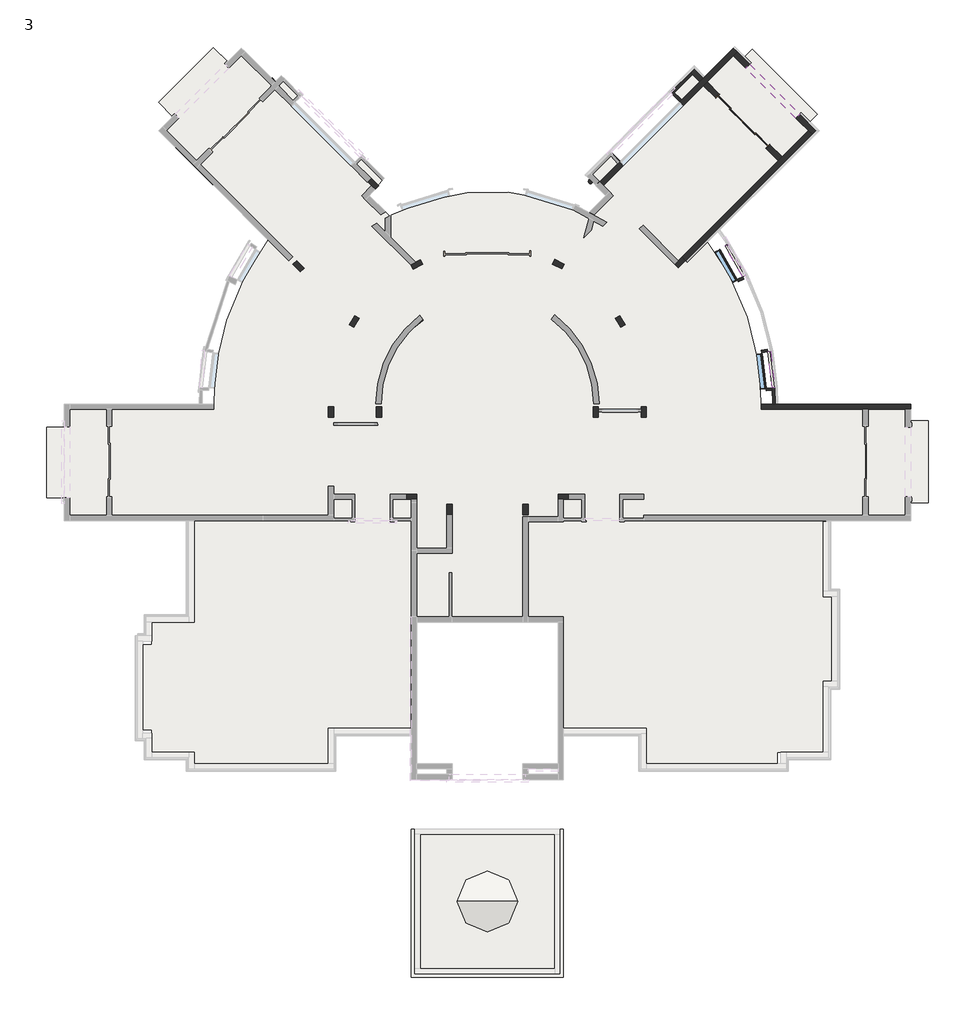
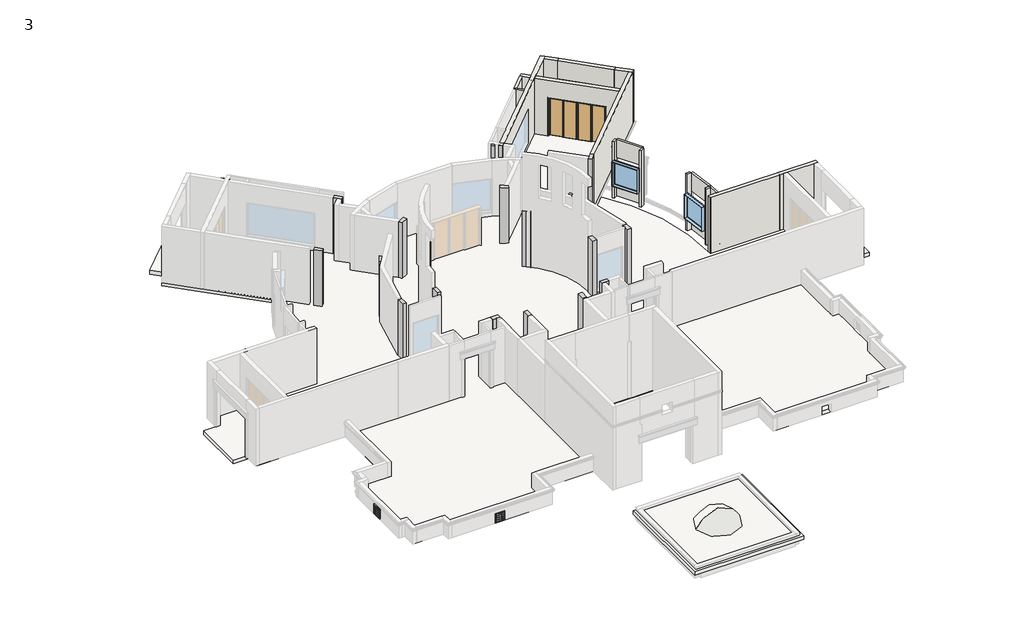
# One storey, part 5 of 12: 26 columns, 19 walls, 3 slabs, 2 proxies, 2 windows, 1 door.
"""IFC4 building model written with IfcOpenShell, lengths in millimetres."""

from ifc_helpers import new_model, si_unit, point, frame, frame_2d, origin, place, context, project, spatial, polyline, circle_curve, trimmed, segment, composite_curve, outline, extrude, faceted_brep, transform, mapped, element, save
from ifc_brep_helpers import plane_surface, cylinder_surface, revolved_surface, advanced_brep
from components import generic_models_3ce4d895, m_concrete_rectangular_column_300_x_450mm_978fc997, sa_concrete_round_column_300_mm_dia_784098f8, aus_sliding_door_4_panel_type_3_7ec97240, floors_1_floors_1_f5d326a2, fixed_w2_3_782477aa

model = new_model("IFC4")

# Units and contexts
model_context = context("Model", 3, world=origin())
ifc_project = project(units=[si_unit("LENGTHUNIT", "METRE", prefix="MILLI")], contexts=[model_context])

# Site, building, storey
site = spatial("IfcSite", under=ifc_project)
building = spatial("IfcBuilding", under=site)
storey = spatial("IfcBuildingStorey", under=building, Name="3", Elevation=3581.4)

# Proxies
placement = place(None, origin())
generic_models_shape = generic_models_3ce4d895(model_context)
element("IfcBuildingElementProxy", 1, Name="stone jhali : stone jhali", ObjectType="stone jhali : stone jhali", at=placement, inside=storey, context=model_context, shape_type="MappedRepresentation", body=[
    mapped(generic_models_shape, transform((-18142.344385, -15088.1193311, 3886.2), x_axis=(1.0, 0.0, 0.0), y_axis=(0.0, 1.0, 0.0), z_axis=(0.0, 0.0, 1.0))),
])
element("IfcBuildingElementProxy", 2, Name="stone jhali : stone jhali", ObjectType="stone jhali : stone jhali", at=placement, inside=storey, context=model_context, shape_type="MappedRepresentation", body=[
    mapped(generic_models_shape, transform((-23501.7608197, -11658.7187537, 3962.4), x_axis=(0.0, 1.0, 0.0), y_axis=(-1.0, 0.0, 0.0), z_axis=(0.0, 0.0, 1.0))),
])

# Columns
m_concrete_rectangular_column_300_x_450mm_shape = m_concrete_rectangular_column_300_x_450mm_978fc997(model_context)
element("IfcColumn", 3, ObjectType="M_Concrete-Rectangular-Column : 300 x 450mm", at=placement, inside=storey, context=model_context, shape_type="MappedRepresentation", body=[
    mapped(m_concrete_rectangular_column_300_x_450mm_shape, transform((-5340.5950906, -8763.5193311, 0.0), x_axis=(0.0, 1.0, 0.0), y_axis=(-1.0, 0.0, 0.0), z_axis=(0.0, 0.0, 1.0))),
])
element("IfcColumn", 4, ObjectType="M_Concrete-Rectangular-Column : 300 x 450mm", at=placement, inside=storey, context=model_context, shape_type="MappedRepresentation", body=[
    mapped(m_concrete_rectangular_column_300_x_450mm_shape, transform((7803.9049094, 418.5806689, 0.0), x_axis=(0.0, 1.0, 0.0), y_axis=(-1.0, 0.0, 0.0), z_axis=(0.0, 0.0, 1.0))),
])
element("IfcColumn", 5, ObjectType="M_Concrete-Rectangular-Column : 300 x 450mm", at=placement, inside=storey, context=model_context, shape_type="MappedRepresentation", body=[
    mapped(m_concrete_rectangular_column_300_x_450mm_shape, transform((3663.7049094, 418.5806689, 0.0), x_axis=(0.0, 1.0, 0.0), y_axis=(-1.0, 0.0, 0.0), z_axis=(0.0, 0.0, 1.0))),
])
element("IfcColumn", 6, ObjectType="M_Concrete-Rectangular-Column : 300 x 450mm", at=placement, inside=storey, context=model_context, shape_type="MappedRepresentation", body=[
    mapped(m_concrete_rectangular_column_300_x_450mm_shape, transform((-5114.2930034, -3467.6193311, 0.0), x_axis=(0.0, 1.0, 0.0), y_axis=(-1.0, 0.0, 0.0), z_axis=(0.0, 0.0, 1.0))),
])
element("IfcColumn", 7, ObjectType="M_Concrete-Rectangular-Column : 300 x 450mm", at=placement, inside=storey, context=model_context, shape_type="MappedRepresentation", body=[
    mapped(m_concrete_rectangular_column_300_x_450mm_shape, transform((-11665.1950906, -3467.6193311, 0.0), x_axis=(0.0, 1.0, 0.0), y_axis=(-1.0, 0.0, 0.0), z_axis=(0.0, 0.0, 1.0))),
])
element("IfcColumn", 8, ObjectType="M_Concrete-Rectangular-Column : 300 x 450mm", at=placement, inside=storey, context=model_context, shape_type="MappedRepresentation", body=[
    mapped(m_concrete_rectangular_column_300_x_450mm_shape, transform((-24581.0950906, 418.5806689, 0.0), x_axis=(0.0, 1.0, 0.0), y_axis=(-1.0, 0.0, 0.0), z_axis=(0.0, 0.0, 1.0))),
])
element("IfcColumn", 9, ObjectType="M_Concrete-Rectangular-Column : 300 x 450mm", at=placement, inside=storey, context=model_context, shape_type="MappedRepresentation", body=[
    mapped(m_concrete_rectangular_column_300_x_450mm_shape, transform((-20439.9860213, 418.5806689, 0.0), x_axis=(0.0, 1.0, 0.0), y_axis=(-1.0, 0.0, 0.0), z_axis=(0.0, 0.0, 1.0))),
])
element("IfcColumn", 10, ObjectType="M_Concrete-Rectangular-Column : 300 x 450mm", at=placement, inside=storey, context=model_context, shape_type="MappedRepresentation", body=[
    mapped(m_concrete_rectangular_column_300_x_450mm_shape, transform((-15132.2950906, 189.9806689, 0.0), x_axis=(-1.0, 0.0, 0.0), y_axis=(0.0, -1.0, 0.0), z_axis=(0.0, 0.0, 1.0))),
])
element("IfcColumn", 11, ObjectType="M_Concrete-Rectangular-Column : 300 x 450mm", at=placement, inside=storey, context=model_context, shape_type="MappedRepresentation", body=[
    mapped(m_concrete_rectangular_column_300_x_450mm_shape, transform((-10026.8950906, -4006.2422692, 0.0), x_axis=(-1.0, 0.0, 0.0), y_axis=(0.0, -1.0, 0.0), z_axis=(0.0, 0.0, 1.0))),
])
element("IfcColumn", 12, ObjectType="M_Concrete-Rectangular-Column : 300 x 450mm", at=placement, inside=storey, context=model_context, shape_type="MappedRepresentation", body=[
    mapped(m_concrete_rectangular_column_300_x_450mm_shape, transform((-6750.2950906, -4006.2422692, 0.0), x_axis=(-1.0, 0.0, 0.0), y_axis=(0.0, -1.0, 0.0), z_axis=(0.0, 0.0, 1.0))),
])
element("IfcColumn", 13, ObjectType="M_Concrete-Rectangular-Column : 300 x 450mm", at=placement, inside=storey, context=model_context, shape_type="MappedRepresentation", body=[
    mapped(m_concrete_rectangular_column_300_x_450mm_shape, transform((-1644.8950906, 189.9806689, 0.0), x_axis=(-1.0, 0.0, 0.0), y_axis=(0.0, -1.0, 0.0), z_axis=(0.0, 0.0, 1.0))),
])
element("IfcColumn", 14, ObjectType="M_Concrete-Rectangular-Column : 300 x 450mm", at=placement, inside=storey, context=model_context, shape_type="MappedRepresentation", body=[
    mapped(m_concrete_rectangular_column_300_x_450mm_shape, transform((-13062.1950906, 189.9806689, 0.0), x_axis=(1.0, 0.0, 0.0), y_axis=(0.0, 1.0, 0.0), z_axis=(0.0, 0.0, 1.0))),
])
element("IfcColumn", 15, ObjectType="M_Concrete-Rectangular-Column : 300 x 450mm", at=placement, inside=storey, context=model_context, shape_type="MappedRepresentation", body=[
    mapped(m_concrete_rectangular_column_300_x_450mm_shape, transform((-3717.2930034, 189.9806689, 0.0), x_axis=(1.0, 0.0, 0.0), y_axis=(0.0, 1.0, 0.0), z_axis=(0.0, 0.0, 1.0))),
])
element("IfcColumn", 16, ObjectType="M_Concrete-Rectangular-Column : 300 x 450mm", at=placement, inside=storey, context=model_context, shape_type="MappedRepresentation", body=[
    mapped(m_concrete_rectangular_column_300_x_450mm_shape, transform((-5378.6950906, 4124.5607697, 0.0), x_axis=(0.6331323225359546, 0.7740435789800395, 0.0), y_axis=(-0.7740435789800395, 0.6331323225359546, 0.0), z_axis=(0.0, 0.0, 1.0))),
])
element("IfcColumn", 17, ObjectType="M_Concrete-Rectangular-Column : 300 x 450mm", at=placement, inside=storey, context=model_context, shape_type="MappedRepresentation", body=[
    mapped(m_concrete_rectangular_column_300_x_450mm_shape, transform((-11398.4950906, 4091.8314615, 0.0), x_axis=(-0.6123355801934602, 0.7905979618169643, 0.0), y_axis=(-0.7905979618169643, -0.6123355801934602, 0.0), z_axis=(0.0, 0.0, 1.0))),
])
element("IfcColumn", 18, ObjectType="M_Concrete-Rectangular-Column : 300 x 450mm", at=placement, inside=storey, context=model_context, shape_type="MappedRepresentation", body=[
    mapped(m_concrete_rectangular_column_300_x_450mm_shape, transform((-14128.9950906, 4091.8314615, 0.0), x_axis=(0.8571673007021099, -0.5150380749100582, 0.0), y_axis=(0.5150380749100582, 0.8571673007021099, 0.0), z_axis=(0.0, 0.0, 1.0))),
])
element("IfcColumn", 19, ObjectType="M_Concrete-Rectangular-Column : 300 x 450mm", at=placement, inside=storey, context=model_context, shape_type="MappedRepresentation", body=[
    mapped(m_concrete_rectangular_column_300_x_450mm_shape, transform((-2653.4275467, 4091.8314615, 0.0), x_axis=(0.8496279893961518, 0.5273824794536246, 0.0), y_axis=(-0.5273824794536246, 0.8496279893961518, 0.0), z_axis=(0.0, 0.0, 1.0))),
])
element("IfcColumn", 20, ObjectType="M_Concrete-Rectangular-Column : 300 x 450mm", at=placement, inside=storey, context=model_context, shape_type="MappedRepresentation", body=[
    mapped(m_concrete_rectangular_column_300_x_450mm_shape, transform((-5337.4238046, 6561.8551911, 0.0), x_axis=(0.4520268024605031, 0.8920043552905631, 0.0), y_axis=(-0.8920043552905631, 0.4520268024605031, 0.0), z_axis=(0.0, 0.0, 1.0))),
])
element("IfcColumn", 21, ObjectType="M_Concrete-Rectangular-Column : 300 x 450mm", at=placement, inside=storey, context=model_context, shape_type="MappedRepresentation", body=[
    mapped(m_concrete_rectangular_column_300_x_450mm_shape, transform((-11434.1429814, 6550.5777908, 0.0), x_axis=(-0.452026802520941, 0.8920043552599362, 0.0), y_axis=(-0.8920043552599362, -0.452026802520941, 0.0), z_axis=(0.0, 0.0, 1.0))),
])
element("IfcColumn", 22, ObjectType="M_Concrete-Rectangular-Column : 300 x 450mm", at=placement, inside=storey, context=model_context, shape_type="MappedRepresentation", body=[
    mapped(m_concrete_rectangular_column_300_x_450mm_shape, transform((-16538.0075219, 6473.1500944, 0.0), x_axis=(-0.7071067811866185, -0.7071067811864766, 0.0), y_axis=(0.7071067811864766, -0.7071067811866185, 0.0), z_axis=(0.0, 0.0, 1.0))),
])
element("IfcColumn", 23, ObjectType="M_Concrete-Rectangular-Column : 300 x 450mm", at=placement, inside=storey, context=model_context, shape_type="MappedRepresentation", body=[
    mapped(m_concrete_rectangular_column_300_x_450mm_shape, transform((-17608.7950906, 14349.4565887, 0.0), x_axis=(0.7445226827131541, 0.6675971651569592, 0.0), y_axis=(-0.6675971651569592, 0.7445226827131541, 0.0), z_axis=(0.0, 0.0, 1.0))),
])
element("IfcColumn", 24, ObjectType="M_Concrete-Rectangular-Column : 300 x 450mm", at=placement, inside=storey, context=model_context, shape_type="MappedRepresentation", body=[
    mapped(m_concrete_rectangular_column_300_x_450mm_shape, transform((-13307.7107299, 10031.92693, 0.0), x_axis=(0.7071067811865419, 0.7071067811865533, 0.0), y_axis=(-0.7071067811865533, 0.7071067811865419, 0.0), z_axis=(0.0, 0.0, 1.0))),
])
element("IfcColumn", 25, ObjectType="M_Concrete-Rectangular-Column : 300 x 450mm", at=placement, inside=storey, context=model_context, shape_type="MappedRepresentation", body=[
    mapped(m_concrete_rectangular_column_300_x_450mm_shape, transform((-3469.4794512, 10031.92693, 0.0), x_axis=(0.7071067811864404, -0.7071067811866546, 0.0), y_axis=(0.7071067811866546, 0.7071067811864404, 0.0), z_axis=(0.0, 0.0, 1.0))),
])
element("IfcColumn", 26, ObjectType="M_Concrete-Rectangular-Column : 300 x 450mm", at=placement, inside=storey, context=model_context, shape_type="MappedRepresentation", body=[
    mapped(m_concrete_rectangular_column_300_x_450mm_shape, transform((-69.8514686, 6642.481285, 0.0), x_axis=(0.7071067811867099, -0.7071067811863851, 0.0), y_axis=(0.7071067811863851, 0.7071067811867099, 0.0), z_axis=(0.0, 0.0, 1.0))),
])
element("IfcColumn", 27, ObjectType="M_Concrete-Rectangular-Column : 300 x 450mm", at=placement, inside=storey, context=model_context, shape_type="MappedRepresentation", body=[
    mapped(m_concrete_rectangular_column_300_x_450mm_shape, transform((846.1346557, 14347.5410369, 0.0), x_axis=(0.7071067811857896, -0.7071067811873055, 0.0), y_axis=(0.7071067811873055, 0.7071067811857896, 0.0), z_axis=(0.0, 0.0, 1.0))),
])
sa_concrete_round_column_300_mm_dia_shape = sa_concrete_round_column_300_mm_dia_784098f8(model_context)
element("IfcColumn", 28, ObjectType="SA_Concrete - Round-Column : 300 mm dia.", at=placement, inside=storey, context=model_context, shape_type="MappedRepresentation", body=[
    mapped(sa_concrete_round_column_300_mm_dia_shape, transform((-3945.8930034, 10128.4268672, 0.0), x_axis=(1.0, 0.0, 0.0), y_axis=(0.0, 1.0, 0.0), z_axis=(0.0, 0.0, 1.0))),
])

# Door
aus_sliding_door_4_panel_type_3_shape = aus_sliding_door_4_panel_type_3_7ec97240(model_context)
element("IfcDoor", 29, ObjectType="AUS_Sliding Door 4 Panel : Type 3", at=placement, inside=storey, context=model_context, shape_type="MappedRepresentation", body=[
    mapped(aus_sliding_door_4_panel_type_3_shape, transform((2682.3198475, 12667.9092865, 3581.4), x_axis=(-0.7071067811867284, 0.7071067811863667, 0.0), y_axis=(-0.7071067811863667, -0.7071067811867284, 0.0), z_axis=(0.0, 0.0, 1.0))),
])

# Slabs
element("IfcSlab", 30, ObjectType="230mm slab 2", at=placement, inside=storey, context=model_context, shape_type="SweptSolid", body=[
    extrude(outline(composite_curve([segment(polyline([(-21949.2627028, 12926.1149854), (-22564.4102471, 13541.2625297), (-20202.6028872, 15903.0698895), (-19587.455343, 15287.9223452), (-18994.758439, 15880.6192492), (-17537.3615358, 14423.222346), (-17268.9396378, 14691.644244), (-16409.4297103, 13832.1343165), (-16858.2713404, 13382.9503997), (-14271.9575775, 10796.6366368), (-13822.9448041, 11245.6494102), (-12837.1893136, 10259.8939197), (-13524.9739059, 9547.672125), (-12624.7856559, 8647.4850157)]), True, "CONTINUOUS"), segment(trimmed(circle_curve(frame_2d((-8313.0591486, 325.5474236)), 9372.6), [point((-12624.7856559, 8647.4850157))], [point((-4096.7062016, 8696.2103953))], False, "CARTESIAN"), True, "CONTINUOUS"), segment(polyline([(-4096.7062016, 8696.2103953), (-3273.0446051, 9519.8719918), (-4099.2281682, 10346.055555), (-3051.5978461, 11393.6858771), (-2512.7824789, 10854.8705098), (48.6871101, 13416.3400988), (-490.1282571, 13955.1554661), (533.6209407, 14978.9046639), (1090.3968202, 14422.1287844), (2220.9347123, 15552.6666765), (2486.3274925, 15287.2738962), (3025.1428598, 15826.0892635), (5826.9827695, 13024.2493537), (5288.1674023, 12485.4339865), (5449.8120125, 12323.7893763), (923.8088883, 7797.7862522)]), True, "CONTINUOUS"), segment(trimmed(circle_curve(frame_2d((-8388.5950906, 532.8806689)), 11811.0), [point((923.8088883, 7797.7862522))], [point((3420.1924441, 304.2806689))], False, "CARTESIAN"), True, "CONTINUOUS"), segment(polyline([(3420.1924441, 304.2806689), (9632.7049094, 304.2806689), (9632.7049094, -191.0193311), (10623.3049094, -191.0193311), (10623.3049094, -3732.4770415), (9632.7049094, -3732.4770415), (9632.7049094, -4267.7193311), (6202.7878641, -4267.7193311), (6202.7878641, -7657.8181763), (6583.6550044, -7657.8181763), (6583.6550044, -11544.0181763), (6088.4878641, -11544.0181763), (6088.4878641, -14478.5193311), (4108.2049094, -14478.5193311), (4108.2049094, -14973.8193311), (-1530.5950906, -14973.8193311), (-1530.5950906, -13449.0181763), (-5111.9950906, -13449.0181763), (-5111.9950906, -8877.8193311), (-11436.5950906, -8877.8193311), (-11436.5950906, -13449.0181763), (-15246.5950906, -13449.0181763), (-15246.5950906, -14973.8193311), (-21037.7950906, -14973.8193311), (-21037.7950906, -14478.5193311), (-22866.5950906, -14478.5193311), (-22866.5950906, -13506.9693311), (-23247.7608197, -13506.9693311), (-23247.7608197, -9848.5681763), (-22866.5950906, -9848.5681763), (-22866.5950906, -8877.8193311), (-21152.0950906, -8877.8193311), (-21152.0950906, -4267.7193311), (-26408.9780453, -4267.7193311), (-26408.9780453, -3504.9181763), (-27399.7602091, -3504.9181763), (-27399.7602091, -456.9181763), (-26408.9780453, -456.9181763), (-26408.9780453, 304.2806689), (-20197.3826253, 304.2806689)]), True, "CONTINUOUS"), segment(trimmed(circle_curve(frame_2d((-8388.5950906, 532.8806689)), 11811.0), [point((-20197.3826253, 304.2806689))], [point((-17841.0743596, 7614.5723219))], False, "CARTESIAN"), True, "CONTINUOUS"), segment(polyline([(-17841.0743596, 7614.5723219), (-22550.9398629, 12324.4378252), (-21949.2627028, 12926.1149854)]), True, "CONTINUOUS")], self_intersect=False)), frame((0.0, 0.0, 3403.6), z_axis=(0.0, 0.0, 1.0), x_axis=(1.0, 0.0, 0.0)), (0.0, 0.0, 1.0), 228.6),
])
element("IfcSlab", 31, ObjectType="230mm slab 2", at=placement, inside=storey, context=model_context, shape_type="SweptSolid", body=[
    extrude(outline(polyline([(-5111.9950906, -17793.2193311), (-5111.9950906, -24194.0193311), (-11665.1950906, -24194.0193311), (-11665.1950906, -17793.2193311), (-5111.9950906, -17793.2193311)])), frame((0.0, 0.0, 3352.8), z_axis=(0.0, 0.0, 1.0), x_axis=(1.0, 0.0, 0.0)), (0.0, 0.0, 1.0), 228.6),
])
floors_1_floors_1_shape = floors_1_floors_1_f5d326a2(model_context)
element("IfcSlab", 32, ObjectType="Floors 1 : Floors 1", at=placement, inside=storey, context=model_context, shape_type="MappedRepresentation", body=[
    mapped(floors_1_floors_1_shape, transform((0.0, 0.0, 0.0), x_axis=(1.0, 0.0, 0.0), y_axis=(0.0, 1.0, 0.0), z_axis=(0.0, 0.0, 1.0))),
])

# Walls
element("IfcWall", 33, ObjectType="115mm BK WALL", at=placement, inside=storey, context=model_context, shape_type="AdvancedBrep", body=[
    advanced_brep(
    [(4032.0045138, 532.8806689, 7162.8), (4011.9076469, 1242.2990052, 7162.8), (3897.792591, 1235.7994648, 7162.8), (3903.7627565, 1121.6366503, 7162.8), (3917.7045101, 532.8806689, 7162.8), (4011.9076469, 1242.2990052, 3581.4), (4032.0045138, 532.8806689, 3581.4), (3917.7045101, 532.8806689, 3581.4), (3903.7627565, 1121.6366503, 3581.4), (3897.792591, 1235.7994648, 3581.4), (4032.0045138, 532.8806689, 3886.2), (4032.0045138, 532.8806689, 3733.8), (4011.9076469, 1242.2990052, 3733.8), (4011.9076469, 1242.2990052, 3886.2), (4011.9076469, 1242.2990052, 4343.4), (4011.9076469, 1242.2990052, 4495.8), (4011.9076469, 1242.2990052, 4527.55), (4011.9076469, 1242.2990052, 6019.8), (4011.9076469, 1242.2990052, 6515.1), (3897.792591, 1235.7994648, 6019.8), (3897.792591, 1235.7994648, 4495.8)],
    [
        (0, 1, circle_curve(frame((-8388.5950906, 536.0156211, 7162.8), z_axis=(0.0, 0.0, 1.0), x_axis=(1.0, 0.0, 0.0)), 12420.6)),
        (1, 2),
        (2, 3, circle_curve(frame((-8388.5950906, 536.0156211, 7162.8), z_axis=(0.0, 0.0, -1.0), x_axis=(1.0, 0.0, 0.0)), 12306.3)),
        (3, 4, circle_curve(frame((-8388.5950906, 536.0156211, 7162.8), z_axis=(0.0, 0.0, -1.0), x_axis=(1.0, 0.0, 0.0)), 12306.2997457)),
        (4, 0),
        (5, 6, circle_curve(frame((-8388.5950906, 536.0156211, 3581.4), z_axis=(0.0, 0.0, -1.0), x_axis=(1.0, 0.0, 0.0)), 12420.6)),
        (6, 7),
        (7, 8, circle_curve(frame((-8388.5950906, 536.0156211, 3581.4), z_axis=(0.0, 0.0, 1.0), x_axis=(1.0, 0.0, 0.0)), 12306.3)),
        (8, 9, circle_curve(frame((-8388.5950906, 536.0156211, 3581.4), z_axis=(0.0, 0.0, 1.0), x_axis=(1.0, 0.0, 0.0)), 12306.2997457)),
        (9, 5),
        (0, 10),
        (10, 11),
        (11, 6),
        (5, 12),
        (12, 13),
        (13, 14),
        (14, 15),
        (15, 16),
        (16, 17),
        (17, 18),
        (18, 1),
        (2, 19),
        (19, 20),
        (20, 9),
        (7, 4),
    ],
    [
        plane_surface(frame((4032.0049094, 536.0156211, 7162.8), z_axis=(0.0, 0.0, 1.0), x_axis=(0.0, 1.0, 0.0))),
        plane_surface(frame((4032.0049094, 536.0156211, 3581.4), z_axis=(0.0, 0.0, -1.0), x_axis=(0.0, -1.0, 0.0))),
        cylinder_surface(frame((-8388.5950906, 536.0156211, 3581.4), z_axis=(0.0, 0.0, 1.0), x_axis=(1.0, 0.0, 0.0)), 12420.6),
        revolved_surface(polyline([(3917.7049093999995, 536.0156211, 3581.4), (3917.7049093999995, 536.0156211, 7162.8)]), (-8388.5950906, 536.0156211, 3581.4), (0.0, 0.0, -1.0)),
        plane_surface(frame((3631.3457441, 1220.6237107, 3581.4), z_axis=(-0.0568638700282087, 0.998381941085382, 0.0), x_axis=(-0.998381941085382, -0.0568638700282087, 0.0))),
        plane_surface(frame((3438.7049094, 532.8806689, 3581.4), z_axis=(0.0, -1.0, 0.0), x_axis=(-1.0, 0.0, 0.0))),
    ],
    [
        (0, [[1, 2, 3, 4, 5]]),
        (1, [[6, 7, 8, 9, 10]]),
        (2, [[-1, 11, 12, 13, -6, 14, 15, 16, 17, 18, 19, 20, 21]]),
        (3, [[-4, -3, 22, 23, 24, -9, -8, 25]]),
        (4, [[-10, -24, -23, -22, -2, -21, -20, -19, -18, -17, -16, -15, -14]]),
        (5, [[-5, -25, -7, -13, -12, -11]]),
    ],
),
])
element("IfcWall", 34, ObjectType="115mm BK WALL", at=placement, inside=storey, context=model_context, shape_type="SweptSolid", body=[
    extrude(outline(composite_curve([segment(polyline([(3903.7621738, 1121.6542247), (3637.3332541, 1106.4794916)]), True, "CONTINUOUS"), segment(trimmed(circle_curve(frame_2d((-8388.5950906, 532.8806689)), 12039.6), [point((3637.3332541, 1106.4794916))], [point((3631.3457441, 1220.6237107))], True, "CARTESIAN"), True, "CONTINUOUS"), segment(polyline([(3631.3457441, 1220.6237107), (3897.792591, 1235.7994648)]), True, "CONTINUOUS"), segment(trimmed(circle_curve(frame_2d((-8388.5950906, 536.0156211)), 12306.3), [point((3897.792591, 1235.7994648))], [point((3903.7621738, 1121.6542247))], False, "CARTESIAN"), True, "CONTINUOUS")], self_intersect=False)), frame((0.0, 0.0, 3581.4), z_axis=(0.0, 0.0, 1.0), x_axis=(1.0, 0.0, 0.0)), (0.0, 0.0, 1.0), 3581.4),
])
element("IfcWall", 35, ObjectType="115mm BK WALL", at=placement, inside=storey, context=model_context, shape_type="SweptSolid", body=[
    extrude(outline(composite_curve([segment(polyline([(3696.3775885, 2788.1048939), (3446.6880704, 2741.5093521)]), True, "CONTINUOUS"), segment(trimmed(circle_curve(frame_2d((-8388.5950906, 532.8806689)), 12039.6), [point((3446.6880704, 2741.5093521))], [point((3425.1867088, 2853.7701014))], True, "CARTESIAN"), True, "CONTINUOUS"), segment(polyline([(3425.1867088, 2853.7701014), (3675.4095947, 2900.4651771), (3696.3775885, 2788.1048939)]), True, "CONTINUOUS")], self_intersect=False)), frame((0.0, 0.0, 3581.4), z_axis=(0.0, 0.0, 1.0), x_axis=(1.0, 0.0, 0.0)), (0.0, 0.0, 1.0), 3581.4),
])
element("IfcWall", 36, ObjectType="115mm BK WALL", at=placement, inside=storey, context=model_context, shape_type="SweptSolid", body=[
    extrude(outline(composite_curve([segment(polyline([(2676.3480552, 5922.2993929), (2436.4066183, 5802.7294488)]), True, "CONTINUOUS"), segment(trimmed(circle_curve(frame_2d((-8388.5950906, 532.8806689)), 12039.6), [point((2436.4066183, 5802.7294488))], [point((2385.8886248, 5905.2608515))], True, "CARTESIAN"), True, "CONTINUOUS"), segment(polyline([(2385.8886248, 5905.2608515), (2625.8433797, 6024.8374323)]), True, "CONTINUOUS"), segment(trimmed(circle_curve(frame_2d((-8388.5950906, 536.0156211)), 12306.3), [point((2625.8433797, 6024.8374323))], [point((2676.3480552, 5922.2993929))], False, "CARTESIAN"), True, "CONTINUOUS")], self_intersect=False)), frame((0.0, 0.0, 3581.4), z_axis=(0.0, 0.0, 1.0), x_axis=(1.0, 0.0, 0.0)), (0.0, 0.0, 1.0), 3581.4),
])
element("IfcWall", 37, ObjectType="115mm BK WALL", at=placement, inside=storey, context=model_context, shape_type="AdvancedBrep", body=[
    advanced_brep(
    [(1634.525337, 7202.8900432, 3581.4), (1857.8674575, 7351.8079405, 3581.4), (1857.8674575, 7351.8079405, 7162.8), (1634.525337, 7202.8900432, 7162.8), (1570.751012, 7297.7452919, 3581.4), (1570.751012, 7297.7452919, 7162.8), (1794.1212056, 7446.6819075, 7162.8), (1794.1212056, 7446.6819075, 3581.4), (1857.0488391, 7353.0384431, 7162.8)],
    [
        (0, 1),
        (1, 2),
        (2, 3),
        (3, 0),
        (4, 5),
        (5, 6),
        (6, 7),
        (7, 4),
        (0, 4, circle_curve(frame((-8388.5950906, 532.8806689, 3581.4), z_axis=(0.0, 0.0, 1.0), x_axis=(1.0, 0.0, 0.0)), 12039.6)),
        (7, 1, circle_curve(frame((-8388.5950906, 536.0156211, 3581.4), z_axis=(0.0, 0.0, -1.0), x_axis=(1.0, 0.0, 0.0)), 12306.3)),
        (2, 8, circle_curve(frame((-8388.5950906, 536.0156211, 7162.8), z_axis=(0.0, 0.0, 1.0), x_axis=(1.0, 0.0, 0.0)), 12306.3)),
        (8, 6, circle_curve(frame((-8388.5950906, 536.0156211, 7162.8), z_axis=(0.0, 0.0, 1.0), x_axis=(1.0, 0.0, 0.0)), 12306.3)),
        (5, 3, circle_curve(frame((-8388.5950906, 532.8806689, 7162.8), z_axis=(0.0, 0.0, -1.0), x_axis=(1.0, 0.0, 0.0)), 12039.6)),
    ],
    [
        plane_surface(frame((1634.5165869, 7202.8842089, 3581.4), z_axis=(0.5547599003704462, -0.8320104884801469, 0.0), x_axis=(0.8320104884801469, 0.5547599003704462, 0.0))),
        plane_surface(frame((1571.1075303, 7297.9830077, 3581.4), z_axis=(-0.5547599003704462, 0.8320104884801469, 0.0), x_axis=(-0.8320104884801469, -0.5547599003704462, 0.0))),
        plane_surface(frame((1539.3560535, 7139.4339895, 3581.4), z_axis=(0.0, 0.0, -1.0), x_axis=(-0.5547599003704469, 0.8320104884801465, 0.0))),
        plane_surface(frame((1905.3589683, 7383.4738704, 7162.8), z_axis=(0.0, 0.0, 1.0), x_axis=(-0.5547599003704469, 0.8320104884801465, 0.0))),
        cylinder_surface(frame((-8388.5950906, 536.0156211, 3581.4), z_axis=(0.0, 0.0, -1.0), x_axis=(1.0, 0.0, 0.0)), 12306.3),
        revolved_surface(polyline([(3651.0049094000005, 532.8806689, 7162.8), (3651.0049094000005, 532.8806689, 3581.4)]), (-8388.5950906, 532.8806689, 3581.4), (0.0, 0.0, 1.0)),
    ],
    [
        (0, [[1, 2, 3, 4]]),
        (1, [[5, 6, 7, 8]]),
        (2, [[-1, 9, -8, 10]]),
        (3, [[-3, 11, 12, -6, 13]]),
        (4, [[-2, -10, -7, -12, -11]]),
        (5, [[-4, -13, -5, -9]]),
    ],
),
])
element("IfcWall", 38, ObjectType="115mm BK WALL", at=placement, inside=storey, context=model_context, shape_type="Brep", body=[
    faceted_brep([(-18.1895861, 13644.8614052, 3581.4), (-328.4836469, 13955.1554661, 3581.4), (-409.305952, 14035.9777712, 3581.4), (-409.305952, 14035.9777712, 3733.8), (-409.305952, 14035.9777712, 3886.2), (-409.305952, 14035.9777712, 6019.8), (-409.305952, 14035.9777712, 6515.1), (-409.305952, 14035.9777712, 7162.8), (-328.4836469, 13955.1554661, 7162.8), (-18.1895861, 13644.8614052, 7162.8), (-490.1282571, 13955.1554661, 3581.4), (-99.0118912, 13564.0391002, 3581.4), (-99.0118912, 13564.0391002, 3886.2), (-99.0118912, 13564.0391002, 6019.8), (-99.0118912, 13564.0391002, 7162.8), (-409.305952, 13874.333161, 7162.8), (-490.1282571, 13955.1554661, 7162.8), (-490.1282571, 13955.1554661, 6515.1), (-490.1282571, 13955.1554661, 6019.8), (-490.1282571, 13955.1554661, 3886.2), (-490.1282571, 13955.1554661, 3733.8), (-490.1282571, 13955.1554661, 3716.8836)], [[[0, 1, 2, 3, 4, 5, 6, 7, 8, 9]], [[10, 11, 12, 13, 14, 15, 16, 17, 18, 19, 20, 21]], [[2, 1, 0, 11, 10]], [[9, 8, 7, 16, 15, 14]], [[2, 10, 21, 20, 19, 18, 17, 16, 7, 6, 5, 4, 3]], [[0, 9, 14, 13, 12, 11]]]),
])
element("IfcWall", 39, ObjectType="115mm BK WALL", at=placement, inside=storey, context=model_context, shape_type="Brep", body=[
    faceted_brep([(-328.4836469, 13955.1554661, 3581.4), (452.7986356, 14736.4377486, 3581.4), (452.7986356, 14736.4377486, 7162.8), (-328.4836469, 13955.1554661, 7162.8), (371.9763305, 14817.2600537, 3581.4), (-409.305952, 14035.9777712, 3581.4), (-409.305952, 14035.9777712, 3733.8), (-409.305952, 14035.9777712, 3860.8), (-409.305952, 14035.9777712, 3886.2), (-409.305952, 14035.9777712, 6019.8), (-409.305952, 14035.9777712, 6515.1), (-409.305952, 14035.9777712, 7162.8), (371.9763305, 14817.2600537, 7162.8), (371.9763305, 14817.2600537, 3886.2), (371.9763305, 14817.2600537, 3733.8)], [[[0, 1, 2, 3]], [[4, 5, 6, 7, 8, 9, 10, 11, 12, 13, 14]], [[1, 0, 5, 4]], [[3, 2, 12, 11]], [[5, 0, 3, 11, 10, 9, 8, 7, 6]], [[2, 1, 4, 14, 13, 12]]]),
])
element("IfcWall", 40, ObjectType="115mm BK WALL", at=placement, inside=storey, context=model_context, shape_type="AdvancedBrep", body=[
    advanced_brep(
    [(4011.9076469, 1242.2990052, 7162.8), (3821.8052039, 2811.4120722, 7162.8), (3709.439557, 2790.472841, 7162.8), (3897.792591, 1235.7994648, 7162.8), (3821.8052039, 2811.4120722, 6019.8), (4011.9076469, 1242.2990052, 6019.8), (3897.792591, 1235.7994648, 6019.8), (3709.439557, 2790.472841, 6019.8), (4011.9076469, 1242.2990052, 6515.1), (3821.8052039, 2811.4120722, 6515.1)],
    [
        (0, 1, circle_curve(frame((-8388.5950905, 536.0156211, 7162.8), z_axis=(0.0, 0.0, 1.0), x_axis=(1.0, 0.0, 0.0)), 12420.5999999)),
        (1, 2),
        (2, 3, circle_curve(frame((-8388.5950905, 536.0156211, 7162.8), z_axis=(0.0, 0.0, -1.0), x_axis=(1.0, 0.0, 0.0)), 12306.2999999)),
        (3, 0),
        (4, 5, circle_curve(frame((-8388.5950905, 536.0156211, 6019.8), z_axis=(0.0, 0.0, -1.0), x_axis=(1.0, 0.0, 0.0)), 12420.5999999)),
        (5, 6),
        (6, 7, circle_curve(frame((-8388.5950905, 536.0156211, 6019.8), z_axis=(0.0, 0.0, 1.0), x_axis=(1.0, 0.0, 0.0)), 12306.2999999)),
        (7, 4),
        (0, 8),
        (8, 5),
        (4, 9),
        (9, 1),
        (7, 2),
        (6, 3),
    ],
    [
        plane_surface(frame((4032.0049094, 536.0156211, 7162.8), z_axis=(0.0, 0.0, 1.0), x_axis=(0.0, 1.0, 0.0))),
        plane_surface(frame((4032.0049094, 536.0156211, 6019.8), z_axis=(0.0, 0.0, -1.0), x_axis=(0.0, -1.0, 0.0))),
        cylinder_surface(frame((-8388.5950905, 536.0156211, 6019.8), z_axis=(0.0, 0.0, 1.0), x_axis=(1.0, 0.0, 0.0)), 12420.5999999),
        plane_surface(frame((3821.8052039, 2811.4120722, 7162.8), z_axis=(-0.18319537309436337, 0.9830765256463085, 0.0), x_axis=(0.0, 0.0, -1.0))),
        revolved_surface(polyline([(3917.7049093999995, 536.0156211, 6019.8), (3917.7049093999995, 536.0156211, 7162.8)]), (-8388.5950905, 536.0156211, 6019.8), (0.0, 0.0, -1.0)),
        plane_surface(frame((3631.3457441, 1220.6237107, 3581.4), z_axis=(0.0568638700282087, -0.998381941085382, 0.0), x_axis=(-0.998381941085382, -0.0568638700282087, 0.0))),
    ],
    [
        (0, [[1, 2, 3, 4]]),
        (1, [[5, 6, 7, 8]]),
        (2, [[-1, 9, 10, -5, 11, 12]]),
        (3, [[-2, -12, -11, -8, 13]]),
        (4, [[-3, -13, -7, 14]]),
        (5, [[-4, -14, -6, -10, -9]]),
    ],
),
])
element("IfcWall", 41, ObjectType="115mm BK WALL", at=placement, inside=storey, context=model_context, shape_type="Brep", body=[
    faceted_brep([(1857.0488448, 7353.0384346, 6019.8), (2627.5301939, 6021.7012424, 6019.8), (2627.5301939, 6021.7012424, 7162.8), (1857.0488448, 7353.0384346, 7162.8), (2726.4578516, 6078.9533913, 6019.8), (1954.1919273, 7413.3742029, 6019.8), (1954.1919273, 7413.3742029, 6515.1), (1954.1919273, 7413.3742029, 7162.8), (2726.4578516, 6078.9533913, 7162.8), (2726.4578516, 6078.9533913, 6515.1)], [[[0, 1, 2, 3]], [[4, 5, 6, 7, 8, 9]], [[1, 0, 5, 4]], [[2, 1, 4, 9, 8]], [[3, 2, 8, 7]], [[0, 3, 7, 6, 5]]]),
])
element("IfcWall", 42, ObjectType="115mm BK WALL 2", at=placement, inside=storey, context=model_context, shape_type="AdvancedBrep", body=[
    advanced_brep(
    [(2728.1446658, 6075.8172015, 4191.0), (1953.2043205, 7414.8592231, 4191.0), (1858.0343873, 7351.5569814, 4191.0), (2625.8433797, 6024.8374323, 4191.0), (1953.2043205, 7414.8592231, 3581.4), (2728.1446658, 6075.8172015, 3581.4), (2625.8433797, 6024.8374323, 3581.4), (1858.0343873, 7351.5569814, 3581.4), (2728.1446658, 6075.8172015, 4089.4), (2728.1446658, 6075.8172015, 3886.2), (2728.1446658, 6075.8172015, 3733.8), (1953.2043205, 7414.8592231, 3733.8), (1953.2043205, 7414.8592231, 3886.2), (1953.2043205, 7414.8592231, 4089.4)],
    [
        (0, 1, circle_curve(frame((-8388.5950907, 536.015621, 4191.0), z_axis=(0.0, 0.0, 1.0), x_axis=(1.0, 0.0, 0.0)), 12420.6000002)),
        (1, 2),
        (2, 3, circle_curve(frame((-8388.5950907, 536.015621, 4191.0), z_axis=(0.0, 0.0, -1.0), x_axis=(1.0, 0.0, 0.0)), 12306.3000002)),
        (3, 0),
        (4, 5, circle_curve(frame((-8388.5950907, 536.015621, 3581.4), z_axis=(0.0, 0.0, -1.0), x_axis=(1.0, 0.0, 0.0)), 12420.6000002)),
        (5, 6),
        (6, 7, circle_curve(frame((-8388.5950907, 536.015621, 3581.4), z_axis=(0.0, 0.0, 1.0), x_axis=(1.0, 0.0, 0.0)), 12306.3000002)),
        (7, 4),
        (0, 8),
        (8, 9),
        (9, 10),
        (10, 5),
        (4, 11),
        (11, 12),
        (12, 13),
        (13, 1),
        (7, 2),
        (6, 3),
    ],
    [
        plane_surface(frame((4032.0049095, 536.015621, 4191.0), z_axis=(0.0, 0.0, 1.0), x_axis=(0.0, 1.0, 0.0))),
        plane_surface(frame((4032.0049095, 536.015621, 3581.4), z_axis=(0.0, 0.0, -1.0), x_axis=(0.0, -1.0, 0.0))),
        cylinder_surface(frame((-8388.5950907, 536.015621, 3581.4), z_axis=(0.0, 0.0, 1.0), x_axis=(1.0, 0.0, 0.0)), 12420.6000002),
        plane_surface(frame((1953.2043205, 7414.8592231, 4191.0), z_axis=(-0.553825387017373, 0.8326328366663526, 0.0), x_axis=(0.0, 0.0, -1.0))),
        revolved_surface(polyline([(3917.7049095, 536.015621, 3581.4), (3917.7049095, 536.015621, 4191.0)]), (-8388.5950907, 536.015621, 3581.4), (0.0, 0.0, -1.0)),
        plane_surface(frame((2386.4657361, 5905.5484432, 3581.4), z_axis=(0.4460172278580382, -0.8950243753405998, 0.0), x_axis=(-0.8950243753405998, -0.4460172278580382, 0.0))),
    ],
    [
        (0, [[1, 2, 3, 4]]),
        (1, [[5, 6, 7, 8]]),
        (2, [[-1, 9, 10, 11, 12, -5, 13, 14, 15, 16]]),
        (3, [[-2, -16, -15, -14, -13, -8, 17]]),
        (4, [[-3, -17, -7, 18]]),
        (5, [[-4, -18, -6, -12, -11, -10, -9]]),
    ],
),
])
element("IfcWall", 43, ObjectType="115mm BK WALL 2", at=placement, inside=storey, context=model_context, shape_type="AdvancedBrep", body=[
    advanced_brep(
    [(4011.9076469, 1242.2990052, 4495.8), (3821.8052039, 2811.4120721, 4495.8), (3709.439557, 2790.472841, 4495.8), (3897.792591, 1235.7994648, 4495.8), (3821.8052039, 2811.4120721, 3581.4), (4011.9076469, 1242.2990052, 3581.4), (3897.792591, 1235.7994648, 3581.4), (3709.439557, 2790.472841, 3581.4), (4011.9076469, 1242.2990052, 4343.4), (4011.9076469, 1242.2990052, 3886.2), (4011.9076469, 1242.2990052, 3733.8), (3821.8052039, 2811.4120721, 3733.8), (3821.8052039, 2811.4120721, 3886.2), (3821.8052039, 2811.4120721, 4343.4)],
    [
        (0, 1, circle_curve(frame((-8388.5950906, 536.0156211, 4495.8), z_axis=(0.0, 0.0, 1.0), x_axis=(1.0, 0.0, 0.0)), 12420.6)),
        (1, 2),
        (2, 3, circle_curve(frame((-8388.5950906, 536.0156211, 4495.8), z_axis=(0.0, 0.0, -1.0), x_axis=(1.0, 0.0, 0.0)), 12306.3)),
        (3, 0),
        (4, 5, circle_curve(frame((-8388.5950906, 536.0156211, 3581.4), z_axis=(0.0, 0.0, -1.0), x_axis=(1.0, 0.0, 0.0)), 12420.6)),
        (5, 6),
        (6, 7, circle_curve(frame((-8388.5950906, 536.0156211, 3581.4), z_axis=(0.0, 0.0, 1.0), x_axis=(1.0, 0.0, 0.0)), 12306.3)),
        (7, 4),
        (0, 8),
        (8, 9),
        (9, 10),
        (10, 5),
        (4, 11),
        (11, 12),
        (12, 13),
        (13, 1),
        (7, 2),
        (6, 3),
    ],
    [
        plane_surface(frame((4032.0049094, 536.0156211, 4495.8), z_axis=(0.0, 0.0, 1.0), x_axis=(0.0, 1.0, 0.0))),
        plane_surface(frame((4032.0049094, 536.0156211, 3581.4), z_axis=(0.0, 0.0, -1.0), x_axis=(0.0, -1.0, 0.0))),
        cylinder_surface(frame((-8388.5950906, 536.0156211, 3581.4), z_axis=(0.0, 0.0, 1.0), x_axis=(1.0, 0.0, 0.0)), 12420.6),
        plane_surface(frame((3821.8052039, 2811.4120721, 4495.8), z_axis=(-0.1831953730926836, 0.9830765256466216, 0.0), x_axis=(0.0, 0.0, -1.0))),
        revolved_surface(polyline([(3917.7049093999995, 536.0156211, 3581.4), (3917.7049093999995, 536.0156211, 4495.8)]), (-8388.5950906, 536.0156211, 3581.4), (0.0, 0.0, -1.0)),
        plane_surface(frame((3631.3457441, 1220.6237107, 3581.4), z_axis=(0.0568638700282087, -0.998381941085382, 0.0), x_axis=(-0.998381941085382, -0.0568638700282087, 0.0))),
    ],
    [
        (0, [[1, 2, 3, 4]]),
        (1, [[5, 6, 7, 8]]),
        (2, [[-1, 9, 10, 11, 12, -5, 13, 14, 15, 16]]),
        (3, [[-2, -16, -15, -14, -13, -8, 17]]),
        (4, [[-3, -17, -7, 18]]),
        (5, [[-4, -18, -6, -12, -11, -10, -9]]),
    ],
),
])
element("IfcWall", 44, ObjectType="230mm BK WALL", at=placement, inside=storey, context=model_context, shape_type="AdvancedBrep", body=[
    advanced_brep(
    [(3420.1924441, 304.2806689, 3581.4), (7803.9049094, 304.2806689, 3581.4), (8032.5049094, 304.2806689, 3581.4), (9632.7049094, 304.2806689, 3581.4), (9861.3049094, 304.2806689, 3581.4), (9861.3049094, 304.2806689, 3733.8), (9861.3049094, 304.2806689, 3854.45), (9861.3049094, 304.2806689, 7162.8), (9632.7049094, 304.2806689, 7162.8), (8032.5049094, 304.2806689, 7162.8), (7803.9049094, 304.2806689, 7162.8), (3420.1924441, 304.2806689, 7162.8), (9861.3049094, 532.8806689, 3581.4), (4032.0045138, 532.8806689, 3581.4), (3917.7045101, 532.8806689, 3581.4), (3651.0049094, 532.8806689, 3581.4), (3422.4049094, 532.8806689, 3581.4), (3422.4049094, 532.8806689, 7162.8), (3651.0049094, 532.8806689, 7162.8), (3917.7045101, 532.8806689, 7162.8), (4032.0045138, 532.8806689, 7162.8), (9861.3049094, 532.8806689, 7162.8), (9861.3049094, 532.8806689, 3854.45), (9861.3049094, 532.8806689, 3733.8)],
    [
        (0, 1),
        (1, 2),
        (2, 3),
        (3, 4),
        (4, 5),
        (5, 6),
        (6, 7),
        (7, 8),
        (8, 9),
        (9, 10),
        (10, 11),
        (11, 0),
        (12, 13),
        (13, 14),
        (14, 15),
        (15, 16),
        (16, 17),
        (17, 18),
        (18, 19),
        (19, 20),
        (20, 21),
        (21, 22),
        (22, 23),
        (23, 12),
        (0, 16, circle_curve(frame((-8388.5950906, 532.8806689, 3581.4), z_axis=(0.0, 0.0, 1.0), x_axis=(1.0, 0.0, 0.0)), 11811.0)),
        (12, 4),
        (7, 21),
        (17, 11, circle_curve(frame((-8388.5950906, 532.8806689, 7162.8), z_axis=(0.0, 0.0, -1.0), x_axis=(1.0, 0.0, 0.0)), 11811.0)),
    ],
    [
        plane_surface(frame((3438.7049094, 304.2806689, 3581.4), z_axis=(0.0, -1.0, 0.0), x_axis=(1.0, 0.0, 0.0))),
        plane_surface(frame((3438.7049094, 532.8806689, 3581.4), z_axis=(0.0, 1.0, 0.0), x_axis=(-1.0, 0.0, 0.0))),
        plane_surface(frame((3536.1571333, 304.2806689, 3581.4), z_axis=(0.0, 0.0, -1.0), x_axis=(0.0, 1.0, 0.0))),
        plane_surface(frame((9747.0049094, 304.2806689, 7162.8), z_axis=(0.0, 0.0, 1.0), x_axis=(0.0, 1.0, 0.0))),
        plane_surface(frame((9861.3049094, 418.5806689, 3581.4), z_axis=(1.0, 0.0, 0.0), x_axis=(0.0, 1.0, 0.0))),
        revolved_surface(polyline([(3422.4049094, 532.8806689, 3581.4), (3422.4049094, 532.8806689, 7162.8)]), (-8388.5950906, 532.8806689, 3581.4), (0.0, 0.0, -1.0)),
    ],
    [
        (0, [[1, 2, 3, 4, 5, 6, 7, 8, 9, 10, 11, 12]]),
        (1, [[13, 14, 15, 16, 17, 18, 19, 20, 21, 22, 23, 24]]),
        (2, [[-4, -3, -2, -1, 25, -16, -15, -14, -13, 26]]),
        (3, [[-11, -10, -9, -8, 27, -21, -20, -19, -18, 28]]),
        (4, [[-26, -24, -23, -22, -27, -7, -6, -5]]),
        (5, [[-12, -28, -17, -25]]),
    ],
),
])
element("IfcWall", 45, ObjectType="230mm BK WALL", at=placement, inside=storey, context=model_context, shape_type="Brep", body=[
    faceted_brep([(-3386.1115617, 9953.6502093, 3581.4), (924.4113764, 14264.1731474, 3581.4), (1086.0559866, 14425.8177576, 3581.4), (2216.9198089, 15556.6815799, 3581.4), (2378.564419, 15718.3261901, 3581.4), (2378.564419, 15718.3261901, 3733.8), (2378.564419, 15718.3261901, 3886.2), (2378.564419, 15718.3261901, 7162.8), (2216.9198089, 15556.6815799, 7162.8), (1086.0559866, 14425.8177576, 7162.8), (924.4113764, 14264.1731474, 7162.8), (-3386.1115617, 9953.6502093, 7162.8), (62.632719, 13402.39449, 6019.8), (62.632719, 13402.39449, 3886.2), (-2523.6810439, 10816.0807271, 3886.2), (-2523.6810439, 10816.0807271, 6019.8), (2216.9198089, 15879.9708002, 3581.4), (924.7373066, 14587.788298, 3581.4), (763.0926964, 14426.1436878, 3581.4), (-18.1895861, 13644.8614052, 3581.4), (-99.0118912, 13564.0391002, 3581.4), (-2680.9790204, 10982.071971, 3581.4), (-2761.9122416, 10901.1387497, 3581.4), (-3547.7561719, 10115.2948195, 3581.4), (-3547.7561719, 10115.2948195, 7162.8), (-2761.9122416, 10901.1387497, 7162.8), (-2680.9790204, 10982.071971, 7162.8), (-99.0118912, 13564.0391002, 7162.8), (-18.1895861, 13644.8614052, 7162.8), (763.0926964, 14426.1436878, 7162.8), (924.7373066, 14587.788298, 7162.8), (2216.9198089, 15879.9708002, 7162.8), (2216.9198089, 15879.9708002, 3886.2), (2216.9198089, 15879.9708002, 3733.8), (-99.0118912, 13564.0391002, 3886.2), (-99.0118912, 13564.0391002, 6019.8), (-2685.3256541, 10977.7253373, 6019.8), (-2685.3256541, 10977.7253373, 3886.2)], [[[0, 1, 2, 3, 4, 5, 6, 7, 8, 9, 10, 11], [12, 13, 14, 15]], [[16, 17, 18, 19, 20, 21, 22, 23, 24, 25, 26, 27, 28, 29, 30, 31, 32, 33], [34, 35, 36, 37]], [[4, 3, 2, 1, 0, 23, 22, 21, 20, 19, 18, 17, 16]], [[11, 10, 9, 8, 7, 31, 30, 29, 28, 27, 26, 25, 24]], [[4, 16, 33, 32, 31, 7, 6, 5]], [[0, 11, 24, 23]], [[13, 12, 35, 34]], [[14, 13, 34, 37]], [[15, 14, 37, 36]], [[12, 15, 36, 35]]]),
])
element("IfcWall", 46, ObjectType="230mm BK WALL", at=placement, inside=storey, context=model_context, shape_type="Brep", body=[
    faceted_brep([(2216.9198089, 15556.6815799, 3581.4), (2755.7351761, 15017.8662126, 3581.4), (2755.7351761, 15017.8662126, 6019.8), (2755.7351761, 15017.8662126, 7162.8), (2216.9198089, 15556.6815799, 7162.8), (2378.564419, 15718.3261901, 7162.8), (2917.3797863, 15179.5108228, 7162.8), (2917.3797863, 15179.5108228, 6515.1), (2917.3797863, 15179.5108228, 6045.2), (2917.3797863, 15179.5108228, 6019.8), (2917.3797863, 15179.5108228, 3886.2), (2917.3797863, 15179.5108228, 3733.8), (2917.3797863, 15179.5108228, 3581.4), (2787.1660726, 15309.7245365, 3581.4), (2378.564419, 15718.3261901, 3581.4), (2378.564419, 15718.3261901, 3733.8), (2378.564419, 15718.3261901, 3886.2)], [[[0, 1, 2, 3, 4]], [[5, 6, 7, 8, 9, 10, 11, 12, 13, 14, 15, 16]], [[1, 0, 14, 13, 12]], [[3, 2, 1, 12, 11, 10, 9, 8, 7, 6]], [[4, 3, 6, 5]], [[0, 4, 5, 16, 15, 14]]]),
])
element("IfcWall", 47, ObjectType="230mm BK WALL", at=placement, inside=storey, context=model_context, shape_type="SweptSolid", body=[
    extrude(outline(polyline([(3850.0, -2478.4), (3850.0, 0.0), (4572.0, 0.0), (4572.0, -3581.4), (0.0, -3581.4), (0.0, 0.0), (722.0, 0.0), (722.0, -2478.4), (3850.0, -2478.4)])), frame((924.4113764, 14264.1731474, 3581.4), z_axis=(0.7071067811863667, 0.7071067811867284, 0.0), x_axis=(0.7071067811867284, -0.7071067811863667, 0.0)), (0.0, 0.0, 1.0), 228.6),
])
element("IfcWall", 48, ObjectType="230mm BK WALL", at=placement, inside=storey, context=model_context, shape_type="Brep", body=[
    faceted_brep([(4910.9966452, 12862.6047436, 3581.4), (5449.8120125, 12323.7893763, 3581.4), (5611.4566226, 12162.1447661, 3581.4), (5611.4566226, 12162.1447661, 3733.8), (5611.4566226, 12162.1447661, 3886.2), (5611.4566226, 12162.1447661, 7162.8), (5449.8120125, 12323.7893763, 7162.8), (4910.9966452, 12862.6047436, 7162.8), (4910.9966452, 12862.6047436, 6019.8), (5072.6412554, 13024.2493537, 7162.8), (5773.1012328, 12323.7893763, 7162.8), (5773.1012328, 12323.7893763, 3886.2), (5773.1012328, 12323.7893763, 3733.8), (5773.1012328, 12323.7893763, 3581.4), (5202.8549691, 12894.03564, 3581.4), (5072.6412554, 13024.2493537, 3581.4), (5072.6412554, 13024.2493537, 3733.8), (5072.6412554, 13024.2493537, 3886.2), (5072.6412554, 13024.2493537, 6019.8), (5072.6412554, 13024.2493537, 6515.1)], [[[0, 1, 2, 3, 4, 5, 6, 7, 8]], [[9, 10, 11, 12, 13, 14, 15, 16, 17, 18, 19]], [[2, 1, 0, 15, 14, 13]], [[7, 6, 5, 10, 9]], [[0, 8, 7, 9, 19, 18, 17, 16, 15]], [[2, 13, 12, 11, 10, 5, 4, 3]]]),
])
element("IfcWall", 49, ObjectType="230mm BK WALL", at=placement, inside=storey, context=model_context, shape_type="Brep", body=[
    faceted_brep([(5449.8120125, 12323.7893763, 3581.4), (4318.9481902, 11192.925554, 3581.4), (4157.30358, 11031.2809438, 3581.4), (8.425252, 6882.4026159, 3581.4), (8.425252, 6882.4026159, 7162.8), (4157.30358, 11031.2809438, 7162.8), (4318.9481902, 11192.925554, 7162.8), (5449.8120125, 12323.7893763, 7162.8), (170.0698622, 6720.7580057, 3581.4), (1063.8841784, 7614.5723219, 3581.4), (1227.1501692, 7777.8383126, 3581.4), (1418.9017195, 7969.589863, 3581.4), (1500.4794478, 8051.1675913, 3581.4), (5611.4566226, 12162.1447661, 3581.4), (5611.4566226, 12162.1447661, 3733.8), (5611.4566226, 12162.1447661, 3886.2), (5611.4566226, 12162.1447661, 7162.8), (1500.4794478, 8051.1675913, 7162.8), (1418.9017195, 7969.589863, 7162.8), (1227.1501692, 7777.8383126, 7162.8), (1063.8841784, 7614.5723219, 7162.8), (170.0698622, 6720.7580057, 7162.8), (170.0698622, 6720.7580057, 3886.2), (170.0698622, 6720.7580057, 3733.8)], [[[0, 1, 2, 3, 4, 5, 6, 7]], [[8, 9, 10, 11, 12, 13, 14, 15, 16, 17, 18, 19, 20, 21, 22, 23]], [[3, 2, 1, 0, 13, 12, 11, 10, 9, 8]], [[4, 3, 8, 23, 22, 21]], [[7, 6, 5, 4, 21, 20, 19, 18, 17, 16]], [[0, 7, 16, 15, 14, 13]]]),
])
element("IfcWall", 50, ObjectType="230mm BK WALL", at=placement, inside=storey, context=model_context, shape_type="Brep", body=[
    faceted_brep([(371.9763305, 14817.2600537, 3581.4), (452.7986356, 14736.4377486, 3581.4), (763.0926964, 14426.1436878, 3581.4), (763.0926964, 14426.1436878, 7162.8), (452.7986356, 14736.4377486, 7162.8), (371.9763305, 14817.2600537, 7162.8), (371.9763305, 14817.2600537, 3886.2), (371.9763305, 14817.2600537, 3733.8), (924.7373066, 14587.788298, 3581.4), (533.6209407, 14978.9046639, 3581.4), (533.6209407, 14978.9046639, 3733.8), (533.6209407, 14978.9046639, 3886.2), (533.6209407, 14978.9046639, 7162.8), (924.7373066, 14587.788298, 7162.8), (924.7373066, 14587.788298, 3886.2), (924.7373066, 14587.788298, 3733.8)], [[[0, 1, 2, 3, 4, 5, 6, 7]], [[8, 9, 10, 11, 12, 13, 14, 15]], [[2, 1, 0, 9, 8]], [[5, 4, 3, 13, 12]], [[5, 12, 11, 10, 9, 0, 7, 6]], [[3, 2, 8, 15, 14, 13]]]),
])
element("IfcWall", 51, ObjectType="230mm BK WALL", at=placement, inside=storey, context=model_context, shape_type="Brep", body=[
    faceted_brep([(2755.7351761, 15017.8662126, 6019.8), (4910.9966452, 12862.6047436, 6019.8), (4910.9966452, 12862.6047436, 7162.8), (2755.7351761, 15017.8662126, 7162.8), (5072.6412554, 13024.2493537, 6019.8), (2917.3797863, 15179.5108228, 6019.8), (2917.3797863, 15179.5108228, 6515.1), (2917.3797863, 15179.5108228, 7162.8), (5072.6412554, 13024.2493537, 7162.8), (5072.6412554, 13024.2493537, 6515.1)], [[[0, 1, 2, 3]], [[4, 5, 6, 7, 8, 9]], [[1, 0, 5, 4]], [[2, 1, 4, 9, 8]], [[3, 2, 8, 7]], [[0, 3, 7, 6, 5]]]),
])

# Windows
fixed_w2_3_shape = fixed_w2_3_782477aa(model_context)
element("IfcWindow", 52, ObjectType="Fixed : W2 3", at=placement, inside=storey, context=model_context, shape_type="MappedRepresentation", body=[
    mapped(fixed_w2_3_shape, transform((1934.3197462, 6454.4845038, 4495.8), x_axis=(0.5003566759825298, -0.8658193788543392, 0.0), y_axis=(0.8658193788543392, 0.5003566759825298, 0.0), z_axis=(0.0, 0.0, 1.0))),
])
element("IfcWindow", 53, ObjectType="Fixed : W2 3", at=placement, inside=storey, context=model_context, shape_type="MappedRepresentation", body=[
    mapped(fixed_w2_3_shape, transform((3432.9650103, 1903.5299627, 4495.8), x_axis=(0.11835289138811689, -0.9929715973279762, 0.0), y_axis=(0.9929715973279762, 0.11835289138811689, 0.0), z_axis=(0.0, 0.0, 1.0))),
])

save(model, "model.ifc")
